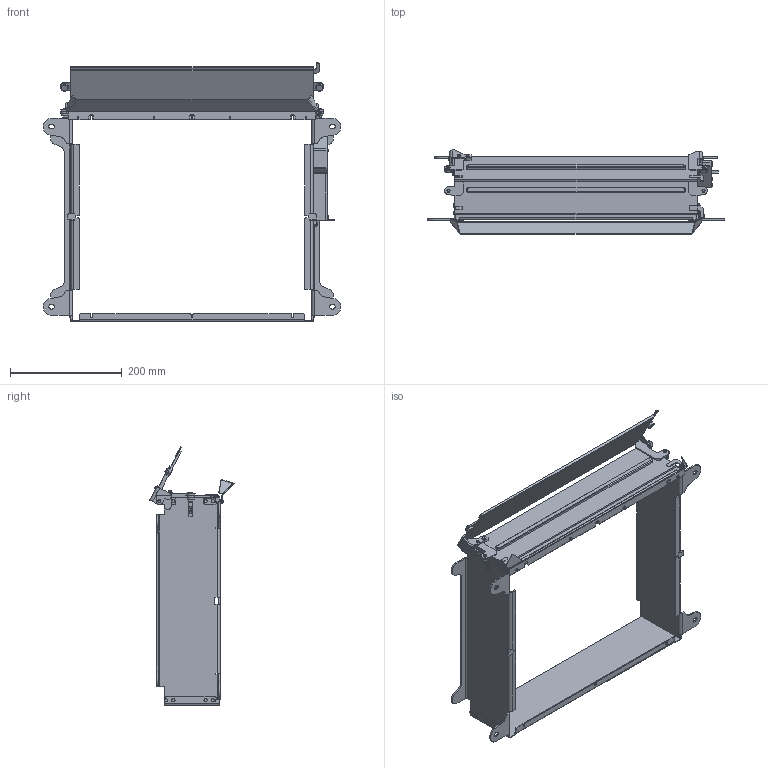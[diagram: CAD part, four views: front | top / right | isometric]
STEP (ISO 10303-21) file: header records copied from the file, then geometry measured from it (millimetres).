
FILE_DESCRIPTION (( 'STEP AP203' ), '1' );
FILE_NAME ('Asyril_PLATFORM FRAME LEFT PURGE H=100mm - 530_000.103.808_(option).STEP', '2020-10-08T13:21:16', ( '' ), ( '' ), 'SwSTEP 2.0', 'SolidWorks 2017', '' );
FILE_SCHEMA (( 'CONFIG_CONTROL_DESIGN' ));
Length unit declared in the file: millimetre
Products named in the file (3): Asyril_PLATFORM FRAME LEFT PURGE H=100mm - 530_000.103.808_OPEN_(option); Asyril_PLATFORM FRAME LEFT PURGE H=100mm - 530_000.103.808_(option); Asyril_PLATFORM FRAME LEFT PURGE H=100mm - 530_000.103.808_CLOSED_(option)
Assembly tree (2 placements, depth 2):
  Asyril_PLATFORM FRAME LEFT PURGE H=100mm - 530_000.103.808_(option)
    Asyril_PLATFORM FRAME LEFT PURGE H=100mm - 530_000.103.808_CLOSED_(option)
    Asyril_PLATFORM FRAME LEFT PURGE H=100mm - 530_000.103.808_OPEN_(option)
Bounding box: 531.9 x 150.28 x 462.6 mm (x, y, z)
Volume: 1430223.8 mm3; surface area: 949641 mm2
Topology: 4 solids, 4 shells, 1889 faces, 4763 edges, 2982 vertices
Faces by surface type: plane 959, cylinder 714, cone 116, torus 76, bspline 24
Entity records: 58032 total; most frequent: CARTESIAN_POINT 11179, DIRECTION 10207, ORIENTED_EDGE 9526, EDGE_CURVE 4763, AXIS2_PLACEMENT_3D 3698, VERTEX_POINT 2982, LINE 2811, VECTOR 2811
